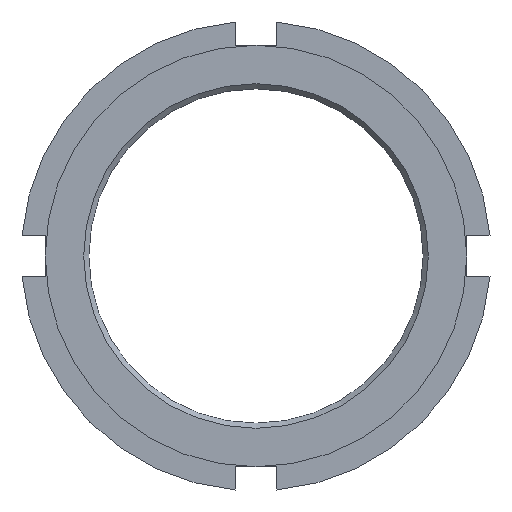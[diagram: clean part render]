
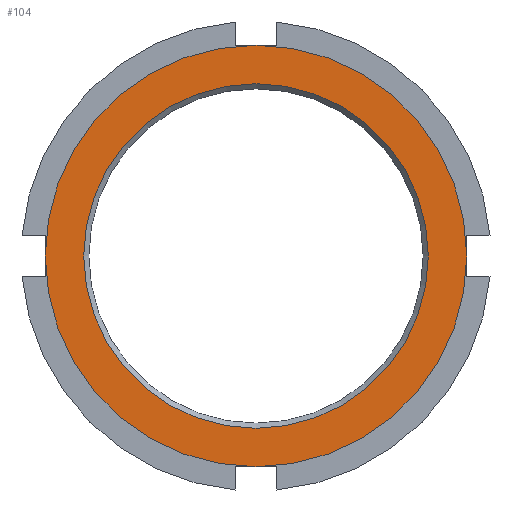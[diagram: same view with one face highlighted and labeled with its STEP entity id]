
A CAD part, left-side view. The second image highlights one B-rep face of the part: STEP entity #104.
In plain terms, the highlighted planar face has unit normal (-1, 0, 0).
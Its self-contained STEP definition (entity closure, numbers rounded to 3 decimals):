
#104 = ADVANCED_FACE( '', ( #177, #178 ), #179, .F. );
#177 = FACE_OUTER_BOUND( '', #255, .T. );
#178 = FACE_BOUND( '', #256, .T. );
#179 = PLANE( '', #257 );
#255 = EDGE_LOOP( '', ( #475 ) );
#256 = EDGE_LOOP( '', ( #476 ) );
#257 = AXIS2_PLACEMENT_3D( '', #477, #478, #479 );
#475 = ORIENTED_EDGE( '', *, *, #570, .F. );
#476 = ORIENTED_EDGE( '', *, *, #550, .T. );
#477 = CARTESIAN_POINT( '', ( 0., 0., 0. ) );
#478 = DIRECTION( '', ( 1., 0., 0. ) );
#479 = DIRECTION( '', ( 0., 0., -1. ) );
#550 = EDGE_CURVE( '', #656, #656, #657, .T. );
#570 = EDGE_CURVE( '', #684, #684, #685, .T. );
#656 = VERTEX_POINT( '', #841 );
#657 = CIRCLE( '', #842, 24.938 );
#684 = VERTEX_POINT( '', #880 );
#685 = CIRCLE( '', #881, 30.5 );
#841 = CARTESIAN_POINT( '', ( 0., 0., -24.938 ) );
#842 = AXIS2_PLACEMENT_3D( '', #971, #972, #973 );
#880 = CARTESIAN_POINT( '', ( 0., 0., -30.5 ) );
#881 = AXIS2_PLACEMENT_3D( '', #1018, #1019, #1020 );
#971 = CARTESIAN_POINT( '', ( 0., 0., 0. ) );
#972 = DIRECTION( '', ( 1., 0., 0. ) );
#973 = DIRECTION( '', ( 0., 0., -1. ) );
#1018 = CARTESIAN_POINT( '', ( 0., 0., 0. ) );
#1019 = DIRECTION( '', ( 1., 0., 0. ) );
#1020 = DIRECTION( '', ( 0., 0., -1. ) );
